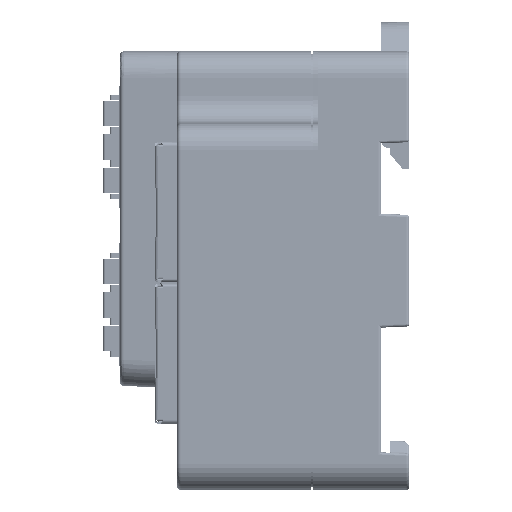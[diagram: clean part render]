
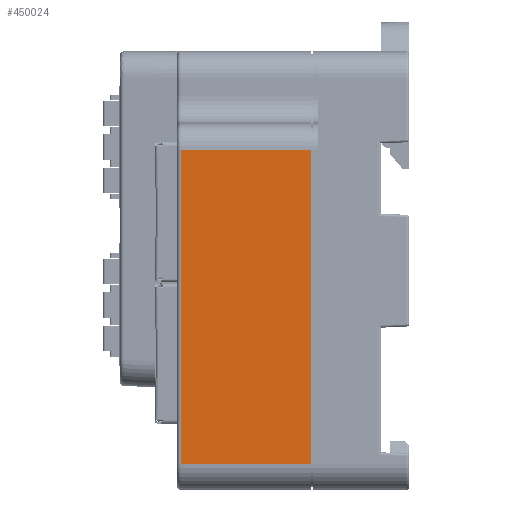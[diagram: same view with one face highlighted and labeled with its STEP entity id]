
A CAD part, left-side view. The second image highlights one B-rep face of the part: STEP entity #450024.
In plain terms, the highlighted planar face has unit normal (-1, 0, 0).
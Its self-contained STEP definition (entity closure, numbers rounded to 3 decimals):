
#32228=DIRECTION('',(0.,0.,1.));
#32229=VECTOR('',#32228,35.752);
#32230=CARTESIAN_POINT('',(-85.5,-7.7,-22.));
#32231=LINE('',#32230,#32229);
#32232=DIRECTION('',(0.,-1.,0.));
#32233=VECTOR('',#32232,14.8);
#32234=CARTESIAN_POINT('',(-85.5,7.1,-22.));
#32235=LINE('',#32234,#32233);
#32236=DIRECTION('',(0.,0.,1.));
#32237=VECTOR('',#32236,35.752);
#32238=CARTESIAN_POINT('',(-85.5,7.1,-22.));
#32239=LINE('',#32238,#32237);
#32240=DIRECTION('',(0.,1.,0.));
#32241=VECTOR('',#32240,14.8);
#32242=CARTESIAN_POINT('',(-85.5,-7.7,13.752));
#32243=LINE('',#32242,#32241);
#398460=CARTESIAN_POINT('',(-85.5,7.1,-22.));
#398461=CARTESIAN_POINT('',(-85.5,7.1,13.752));
#398462=VERTEX_POINT('',#398460);
#398463=VERTEX_POINT('',#398461);
#398512=CARTESIAN_POINT('',(-85.5,-7.7,-22.));
#398513=CARTESIAN_POINT('',(-85.5,-7.7,13.752));
#398514=VERTEX_POINT('',#398512);
#398515=VERTEX_POINT('',#398513);
#450012=CARTESIAN_POINT('',(-85.5,14.6,-25.));
#450013=DIRECTION('',(-1.,0.,0.));
#450014=DIRECTION('',(0.,0.,1.));
#450015=AXIS2_PLACEMENT_3D('',#450012,#450013,#450014);
#450016=PLANE('',#450015);
#450017=ORIENTED_EDGE('',*,*,#436598,.F.);
#450018=ORIENTED_EDGE('',*,*,#450007,.F.);
#450019=ORIENTED_EDGE('',*,*,#436448,.T.);
#450021=ORIENTED_EDGE('',*,*,#450020,.F.);
#450022=EDGE_LOOP('',(#450017,#450018,#450019,#450021));
#450023=FACE_OUTER_BOUND('',#450022,.F.);
#436448=EDGE_CURVE('',#398462,#398463,#32239,.T.);
#436598=EDGE_CURVE('',#398514,#398515,#32231,.T.);
#450007=EDGE_CURVE('',#398462,#398514,#32235,.T.);
#450020=EDGE_CURVE('',#398515,#398463,#32243,.T.);
#450024=ADVANCED_FACE('',(#450023),#450016,.T.);
